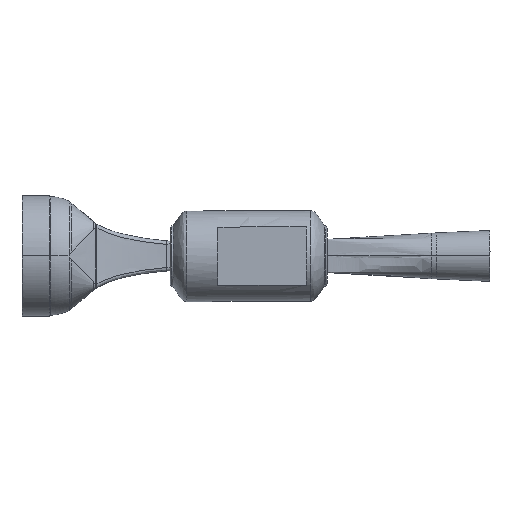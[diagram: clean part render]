
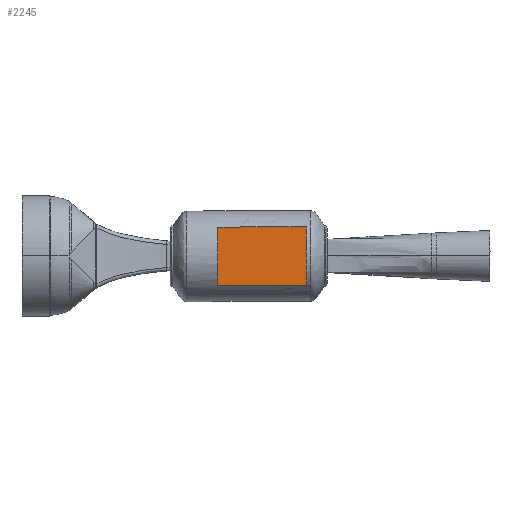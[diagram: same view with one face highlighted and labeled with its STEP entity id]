
A CAD part, front view. The second image highlights one B-rep face of the part: STEP entity #2245.
In plain terms, the highlighted planar face has unit normal (0, -1, 0).
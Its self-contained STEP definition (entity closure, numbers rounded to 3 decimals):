
#1328=FACE_OUTER_BOUND('',#3904,.T.);
#2245=ADVANCED_FACE('',(#1328),#2848,.T.);
#2848=PLANE('',#18425);
#3904=EDGE_LOOP('',(#11811,#11812,#11813,#11814,#11815,#11816,#11817));
#5422=LINE('',#90039,#6849);
#5423=LINE('',#90040,#6850);
#6849=VECTOR('',#21391,1.);
#6850=VECTOR('',#21392,1.);
#11811=ORIENTED_EDGE('',*,*,#14122,.F.);
#11812=ORIENTED_EDGE('',*,*,#16455,.F.);
#11813=ORIENTED_EDGE('',*,*,#14120,.F.);
#11814=ORIENTED_EDGE('',*,*,#16456,.T.);
#11815=ORIENTED_EDGE('',*,*,#14125,.F.);
#11816=ORIENTED_EDGE('',*,*,#14124,.F.);
#11817=ORIENTED_EDGE('',*,*,#14123,.F.);
#12383=VERTEX_POINT('',#22934);
#12384=VERTEX_POINT('',#22939);
#12385=VERTEX_POINT('',#23007);
#12386=VERTEX_POINT('',#23027);
#12387=VERTEX_POINT('',#23032);
#12388=VERTEX_POINT('',#23037);
#12389=VERTEX_POINT('',#23042);
#14120=EDGE_CURVE('',#12383,#12384,#16679,.T.);
#14122=EDGE_CURVE('',#12385,#12386,#16681,.T.);
#14123=EDGE_CURVE('',#12386,#12387,#16682,.T.);
#14124=EDGE_CURVE('',#12387,#12388,#16683,.T.);
#14125=EDGE_CURVE('',#12388,#12389,#16684,.T.);
#16455=EDGE_CURVE('',#12384,#12385,#5422,.T.);
#16456=EDGE_CURVE('',#12383,#12389,#5423,.T.);
#16679=B_SPLINE_CURVE_WITH_KNOTS('',3,(#22935,#22936,#22937,#22938),
 .UNSPECIFIED.,.F.,.F.,(4,4),(0.,1.),.UNSPECIFIED.);
#16681=B_SPLINE_CURVE_WITH_KNOTS('',3,(#23008,#23009,#23010,#23011,#23012,
#23013,#23014,#23015,#23016,#23017,#23018,#23019,#23020,#23021,#23022,#23023,
#23024,#23025,#23026),.UNSPECIFIED.,.F.,.F.,(4,2,2,1,1,1,1,1,1,1,2,2,4),
(0.,0.25,0.375,0.438,0.469,
0.484,0.492,0.496,0.498,
0.499,0.5,0.5,1.),.UNSPECIFIED.);
#16682=B_SPLINE_CURVE_WITH_KNOTS('',3,(#23028,#23029,#23030,#23031),
 .UNSPECIFIED.,.F.,.F.,(4,4),(0.,1.),.UNSPECIFIED.);
#16683=B_SPLINE_CURVE_WITH_KNOTS('',3,(#23033,#23034,#23035,#23036),
 .UNSPECIFIED.,.F.,.F.,(4,4),(0.,1.),.UNSPECIFIED.);
#16684=B_SPLINE_CURVE_WITH_KNOTS('',3,(#23038,#23039,#23040,#23041),
 .UNSPECIFIED.,.F.,.F.,(4,4),(0.,1.),.UNSPECIFIED.);
#18425=AXIS2_PLACEMENT_3D('',#90041,#21393,#21394);
#21391=DIRECTION('',(0.,0.,1.));
#21392=DIRECTION('',(0.,0.,1.));
#21393=DIRECTION('',(0.,-1.,0.));
#21394=DIRECTION('',(0.,0.,-1.));
#22934=CARTESIAN_POINT('',(372.423,-123.126,-103.303));
#22935=CARTESIAN_POINT('',(372.423,-123.126,-103.303));
#22936=CARTESIAN_POINT('',(267.606,-123.112,-103.348));
#22937=CARTESIAN_POINT('',(162.793,-123.097,-104.311));
#22938=CARTESIAN_POINT('',(57.977,-123.082,-104.783));
#22939=CARTESIAN_POINT('',(57.977,-123.082,-104.783));
#23007=CARTESIAN_POINT('',(58.073,-123.083,102.765));
#23008=CARTESIAN_POINT('',(58.073,-123.083,102.765));
#23009=CARTESIAN_POINT('',(63.655,-123.084,102.783));
#23010=CARTESIAN_POINT('',(69.424,-123.085,102.804));
#23011=CARTESIAN_POINT('',(78.356,-123.086,102.837));
#23012=CARTESIAN_POINT('',(81.38,-123.086,102.849));
#23013=CARTESIAN_POINT('',(85.985,-123.087,102.867));
#23014=CARTESIAN_POINT('',(88.306,-123.087,102.876));
#23015=CARTESIAN_POINT('',(91.043,-123.088,102.887));
#23016=CARTESIAN_POINT('',(92.42,-123.088,102.892));
#23017=CARTESIAN_POINT('',(93.11,-123.088,102.895));
#23018=CARTESIAN_POINT('',(93.455,-123.088,102.897));
#23019=CARTESIAN_POINT('',(93.628,-123.088,102.897));
#23020=CARTESIAN_POINT('',(93.715,-123.088,102.898));
#23021=CARTESIAN_POINT('',(93.752,-123.088,102.898));
#23022=CARTESIAN_POINT('',(93.776,-123.088,102.898));
#23023=CARTESIAN_POINT('',(93.79,-123.088,102.898));
#23024=CARTESIAN_POINT('',(104.951,-123.09,102.943));
#23025=CARTESIAN_POINT('',(117.46,-123.091,102.997));
#23026=CARTESIAN_POINT('',(131.328,-123.093,103.059));
#23027=CARTESIAN_POINT('',(131.328,-123.093,103.059));
#23028=CARTESIAN_POINT('',(131.328,-123.093,103.059));
#23029=CARTESIAN_POINT('',(150.662,-123.096,103.146));
#23030=CARTESIAN_POINT('',(169.995,-123.099,103.238));
#23031=CARTESIAN_POINT('',(189.329,-123.101,103.326));
#23032=CARTESIAN_POINT('',(189.329,-123.101,103.326));
#23033=CARTESIAN_POINT('',(189.329,-123.101,103.326));
#23034=CARTESIAN_POINT('',(195.318,-123.102,103.354));
#23035=CARTESIAN_POINT('',(200.984,-123.103,103.379));
#23036=CARTESIAN_POINT('',(206.329,-123.104,103.403));
#23037=CARTESIAN_POINT('',(206.329,-123.104,103.403));
#23038=CARTESIAN_POINT('',(206.329,-123.104,103.403));
#23039=CARTESIAN_POINT('',(261.725,-123.112,103.651));
#23040=CARTESIAN_POINT('',(317.122,-123.119,103.862));
#23041=CARTESIAN_POINT('',(372.519,-123.127,103.874));
#23042=CARTESIAN_POINT('',(372.519,-123.127,103.874));
#90039=CARTESIAN_POINT('',(58.026,-123.083,0.498));
#90040=CARTESIAN_POINT('',(372.471,-123.127,-0.646));
#90041=CARTESIAN_POINT('',(58.1,-123.083,162.426));
